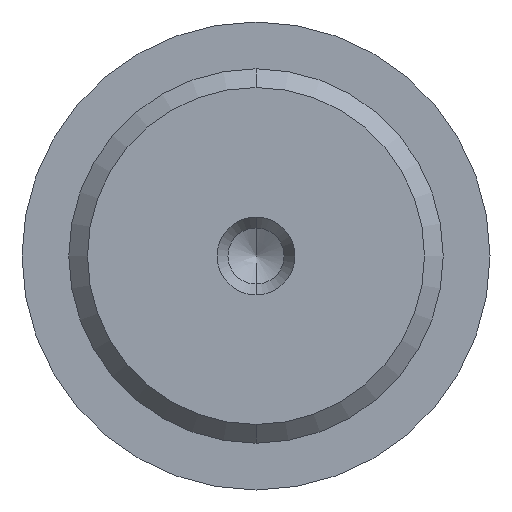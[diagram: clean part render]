
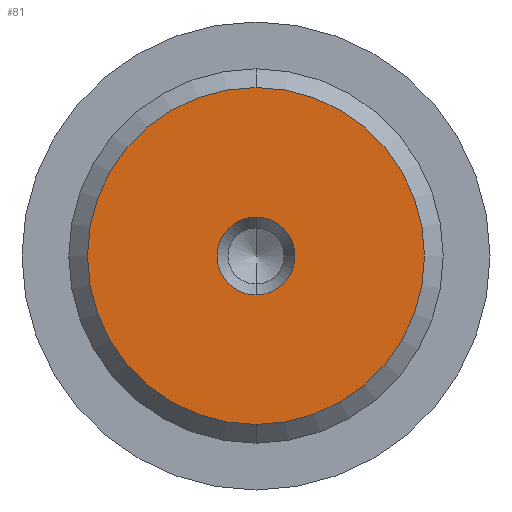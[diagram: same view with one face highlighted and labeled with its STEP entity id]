
A CAD part, left-side view. The second image highlights one B-rep face of the part: STEP entity #81.
In plain terms, the highlighted free-form (B-spline) face has degree [1, 1] with [2, 2] control points.
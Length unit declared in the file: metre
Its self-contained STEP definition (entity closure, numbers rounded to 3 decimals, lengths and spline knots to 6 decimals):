
#81 = ADVANCED_FACE( '', ( #143, #144 ), #145, .F. );
#143 = FACE_BOUND( '', #267, .T. );
#144 = FACE_OUTER_BOUND( '', #268, .T. );
#145 = B_SPLINE_SURFACE_WITH_KNOTS( '', 1, 1, ( ( #269, #270 ), ( #271, #272 ) ), .UNSPECIFIED., .F., .F., .F., ( 2, 2 ), ( 2, 2 ), ( 0., 1. ), ( 0., 1. ), .UNSPECIFIED. );
#267 = EDGE_LOOP( '', ( #729, #730 ) );
#268 = EDGE_LOOP( '', ( #731, #732 ) );
#269 = CARTESIAN_POINT( '', ( 0., -0.009108, 0.009108 ) );
#270 = CARTESIAN_POINT( '', ( 0., 0.009108, 0.009108 ) );
#271 = CARTESIAN_POINT( '', ( 0., -0.009108, -0.009108 ) );
#272 = CARTESIAN_POINT( '', ( 0., 0.009108, -0.009108 ) );
#729 = ORIENTED_EDGE( '', *, *, #1073, .F. );
#730 = ORIENTED_EDGE( '', *, *, #1074, .F. );
#731 = ORIENTED_EDGE( '', *, *, #1072, .T. );
#732 = ORIENTED_EDGE( '', *, *, #1066, .T. );
#1066 = EDGE_CURVE( '', #1179, #1180, #1181, .F. );
#1072 = EDGE_CURVE( '', #1180, #1179, #1189, .F. );
#1073 = EDGE_CURVE( '', #1190, #1191, #1192, .T. );
#1074 = EDGE_CURVE( '', #1191, #1190, #1193, .T. );
#1179 = VERTEX_POINT( '', #1355 );
#1180 = VERTEX_POINT( '', #1356 );
#1181 = CIRCLE( '', #1357, 0.009 );
#1189 = CIRCLE( '', #1367, 0.009 );
#1190 = VERTEX_POINT( '', #1368 );
#1191 = VERTEX_POINT( '', #1369 );
#1192 = CIRCLE( '', #1370, 0.002077 );
#1193 = CIRCLE( '', #1371, 0.002077 );
#1355 = CARTESIAN_POINT( '', ( 0., 0., -0.009 ) );
#1356 = CARTESIAN_POINT( '', ( 0., 0., 0.009 ) );
#1357 = AXIS2_PLACEMENT_3D( '', #1582, #1583, #1584 );
#1367 = AXIS2_PLACEMENT_3D( '', #1596, #1597, #1598 );
#1368 = CARTESIAN_POINT( '', ( 0., 0., -0.002077 ) );
#1369 = CARTESIAN_POINT( '', ( 0., 0., 0.002077 ) );
#1370 = AXIS2_PLACEMENT_3D( '', #1599, #1600, #1601 );
#1371 = AXIS2_PLACEMENT_3D( '', #1602, #1603, #1604 );
#1582 = CARTESIAN_POINT( '', ( 0., 0., 0. ) );
#1583 = DIRECTION( '', ( 1., 0., 0. ) );
#1584 = DIRECTION( '', ( 0., 0., -1. ) );
#1596 = CARTESIAN_POINT( '', ( 0., 0., 0. ) );
#1597 = DIRECTION( '', ( 1., 0., 0. ) );
#1598 = DIRECTION( '', ( 0., 0., -1. ) );
#1599 = CARTESIAN_POINT( '', ( 0., 0., 0. ) );
#1600 = DIRECTION( '', ( -1., 0., 0. ) );
#1601 = DIRECTION( '', ( 0., 0., 1. ) );
#1602 = CARTESIAN_POINT( '', ( 0., 0., 0. ) );
#1603 = DIRECTION( '', ( -1., 0., 0. ) );
#1604 = DIRECTION( '', ( 0., 0., 1. ) );
